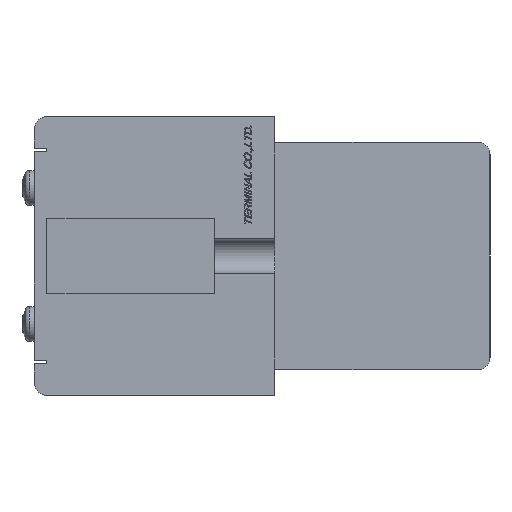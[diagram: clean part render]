
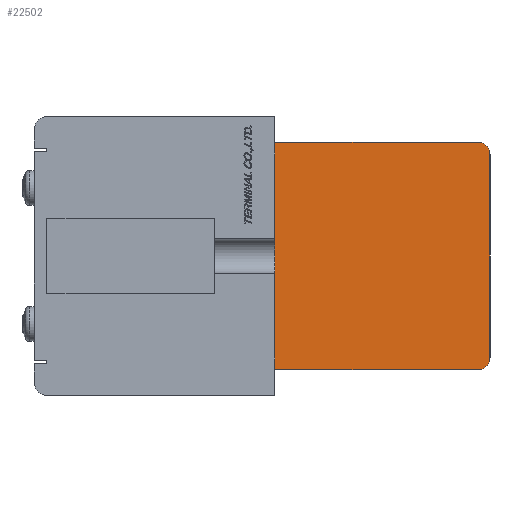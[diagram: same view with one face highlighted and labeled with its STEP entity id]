
A CAD part, left-side view. The second image highlights one B-rep face of the part: STEP entity #22502.
In plain terms, the highlighted planar face has unit normal (-1, 0, 0).
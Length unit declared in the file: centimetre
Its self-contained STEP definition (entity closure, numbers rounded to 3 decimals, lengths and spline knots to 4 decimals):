
#810=CIRCLE('',#37132,0.2);
#811=CIRCLE('',#37135,0.2);
#1991=VERTEX_POINT('',#31679);
#1992=VERTEX_POINT('',#31680);
#1993=VERTEX_POINT('',#31685);
#1994=VERTEX_POINT('',#31689);
#1995=VERTEX_POINT('',#31693);
#1996=VERTEX_POINT('',#31694);
#4395=VECTOR('',#25572,1.);
#4398=VECTOR('',#25580,1.);
#4399=VECTOR('',#25581,1.);
#4400=VECTOR('',#25582,1.);
#6674=LINE('',#31684,#4395);
#6677=LINE('',#31692,#4398);
#6678=LINE('',#31695,#4399);
#6679=LINE('',#31696,#4400);
#9235=EDGE_CURVE('',#1991,#1992,#810,.T.);
#9238=EDGE_CURVE('',#1992,#1993,#6674,.T.);
#9240=EDGE_CURVE('',#1993,#1994,#811,.T.);
#9242=EDGE_CURVE('',#1995,#1996,#6677,.T.);
#9243=EDGE_CURVE('',#1994,#1995,#6678,.T.);
#9244=EDGE_CURVE('',#1996,#1991,#6679,.T.);
#13641=ORIENTED_EDGE('',*,*,#9242,.F.);
#13642=ORIENTED_EDGE('',*,*,#9243,.F.);
#13643=ORIENTED_EDGE('',*,*,#9240,.F.);
#13644=ORIENTED_EDGE('',*,*,#9238,.F.);
#13645=ORIENTED_EDGE('',*,*,#9235,.F.);
#13646=ORIENTED_EDGE('',*,*,#9244,.F.);
#19473=EDGE_LOOP('',(#13641,#13642,#13643,#13644,#13645,#13646));
#21000=FACE_BOUND('',#19473,.T.);
#22502=ADVANCED_FACE('',(#21000),#23735,.F.);
#23735=PLANE('',#37136);
#25567=DIRECTION('',(1.,0.,0.));
#25568=DIRECTION('',(0.,0.,-0.2));
#25572=DIRECTION('',(0.,0.,-1.));
#25576=DIRECTION('',(1.,0.,0.));
#25577=DIRECTION('',(0.,0.,-0.2));
#25579=DIRECTION('',(1.,0.,0.));
#25580=DIRECTION('',(0.,0.,1.));
#25581=DIRECTION('',(0.,1.,0.));
#25582=DIRECTION('',(0.,-1.,0.));
#31678=CARTESIAN_POINT('',(-5.1,-3.2,1.6));
#31679=CARTESIAN_POINT('',(-5.1,-3.2,1.8));
#31680=CARTESIAN_POINT('',(-5.1,-3.4,1.6));
#31684=CARTESIAN_POINT('',(-5.1,-3.4,-1.6));
#31685=CARTESIAN_POINT('',(-5.1,-3.4,-1.6));
#31688=CARTESIAN_POINT('',(-5.1,-3.2,-1.6));
#31689=CARTESIAN_POINT('',(-5.1,-3.2,-1.8));
#31691=CARTESIAN_POINT('',(-5.1,-1.6784,0.));
#31692=CARTESIAN_POINT('',(-5.1,0.,1.8));
#31693=CARTESIAN_POINT('',(-5.1,0.,-1.8));
#31694=CARTESIAN_POINT('',(-5.1,0.,1.8));
#31695=CARTESIAN_POINT('',(-5.1,0.,-1.8));
#31696=CARTESIAN_POINT('',(-5.1,-3.2,1.8));
#37132=AXIS2_PLACEMENT_3D('',#31678,#25567,#25568);
#37135=AXIS2_PLACEMENT_3D('',#31688,#25576,#25577);
#37136=AXIS2_PLACEMENT_3D('',#31691,#25579,$);
